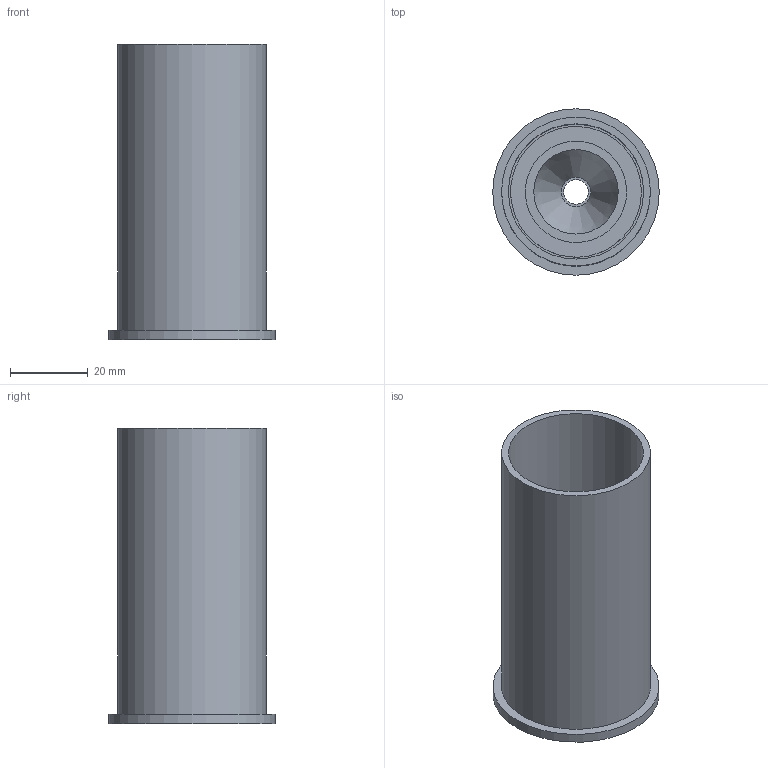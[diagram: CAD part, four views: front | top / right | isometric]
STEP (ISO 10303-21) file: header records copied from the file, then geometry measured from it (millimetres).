
FILE_DESCRIPTION(/* description */ ('STEP AP214'),/* implementation_level */ '2;1');
FILE_NAME(/* name */ '60117f38d7d4451603b77186',/* time_stamp */ '2021-01-27T14:56:57+00:00',/* author */ (''),/* organization */ (''),/* preprocessor_version */ 'ST-DEVELOPER v18.1',/* originating_system */ ' ',/* authorisation */ ' ');
FILE_SCHEMA (('AUTOMOTIVE_DESIGN {1 0 10303 214 3 1 1}'));
Length unit declared in the file: metre
Products named in the file (1): Part 1
Bounding box: 42.93 x 42.93 x 76.2 mm (x, y, z)
Volume: 36315.1 mm3; surface area: 19968.6 mm2
Topology: 1 solids, 1 shells, 15 faces, 22 edges, 15 vertices
Faces by surface type: plane 8, cylinder 5, cone 1, bspline 1
Full cylindrical faces by diameter (mm): 6.3 x1, 8.8 x1, 34.85 x1, 38.354 x1, 42.926 x1
Entity records: 483 total; most frequent: CARTESIAN_POINT 203, DIRECTION 54, ORIENTED_EDGE 30, EDGE_LOOP 30, FACE_BOUND 30, AXIS2_PLACEMENT_3D 27, EDGE_CURVE 15, VERTEX_POINT 15
